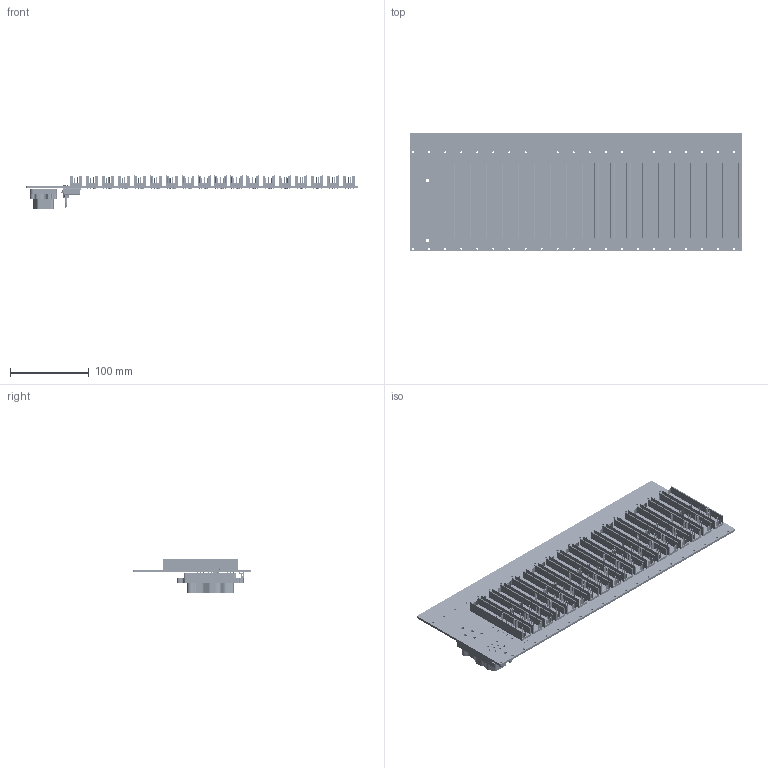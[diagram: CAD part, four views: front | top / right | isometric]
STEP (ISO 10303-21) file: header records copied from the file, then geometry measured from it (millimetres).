
FILE_DESCRIPTION((''),'2;1');
FILE_NAME('SW-TEMP','2013-01-15T',('gvillanu'),(''),'PRO/ENGINEER BY PARAMETRIC TECHNOLOGY CORPORATION, 2011490','PRO/ENGINEER BY PARAMETRIC TECHNOLOGY CORPORATION, 2011490','');
FILE_SCHEMA(('CONFIG_CONTROL_DESIGN'));
Products named in the file (1): SW-TEMP
Bounding box: 420.65 x 150.27 x 42.46 mm (x, y, z)
Surface area: 279047.9 mm2 (no closed solid volume)
Topology: 0 solids, 839 shells, 5570 faces, 14518 edges, 10486 vertices
Faces by surface type: cylinder 3143, plane 2373, cone 40, torus 14
Entity records: 175412 total; most frequent: DIRECTION 34543, CARTESIAN_POINT 30574, ORIENTED_EDGE 24194, EDGE_CURVE 14518, AXIS2_PLACEMENT_3D 14455, VERTEX_POINT 10486, CIRCLE 8885, EDGE_LOOP 7632
